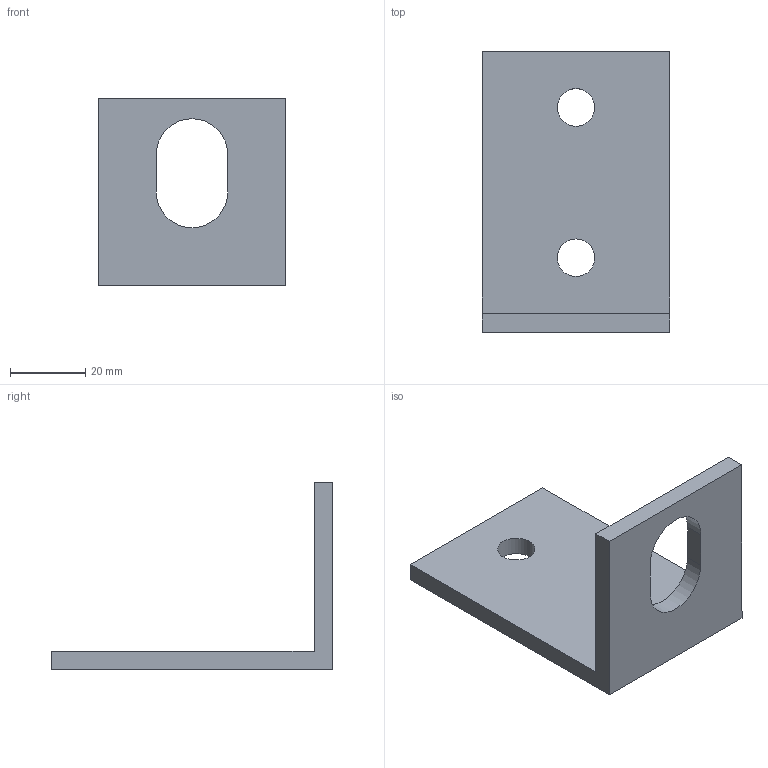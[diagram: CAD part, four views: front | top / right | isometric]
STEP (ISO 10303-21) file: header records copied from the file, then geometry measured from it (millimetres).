
FILE_DESCRIPTION(/* description */ (''),/* implementation_level */ '2;1');
FILE_NAME(/* name */ 'Pos147-Hoeklijn 75x50x5-Aluminium-2st',/* time_stamp */ '2024-08-06T11:49:43+02:00',/* author */ (''),/* organization */ (''),/* preprocessor_version */ 'ST-DEVELOPER v16.5',/* originating_system */ 'HiCAD 2024 2901.2 Build 361',/* authorisation */ '');
FILE_SCHEMA (('AUTOMOTIVE_DESIGN { 1 0 10303 214 1 1 1 1 }'));
Length unit declared in the file: millimetre
Products named in the file (1): Pos147-Hoeklijn 75x50x5-Aluminium-2st
Bounding box: 50 x 75 x 50 mm (x, y, z)
Volume: 26847 mm3; surface area: 13151.4 mm2
Topology: 1 solids, 1 shells, 14 faces, 38 edges, 26 vertices
Faces by surface type: plane 10, cylinder 4
Full cylindrical faces by diameter (mm): 10 x2
Entity records: 788 total; most frequent: CARTESIAN_POINT 72, DIRECTION 70, PRESENTATION_STYLE_ASSIGNMENT 69, COLOUR_RGB 69, DRAUGHTING_PRE_DEFINED_CURVE_FONT 68, CURVE_STYLE 68, OVER_RIDING_STYLED_ITEM 68, ORIENTED_EDGE 68
